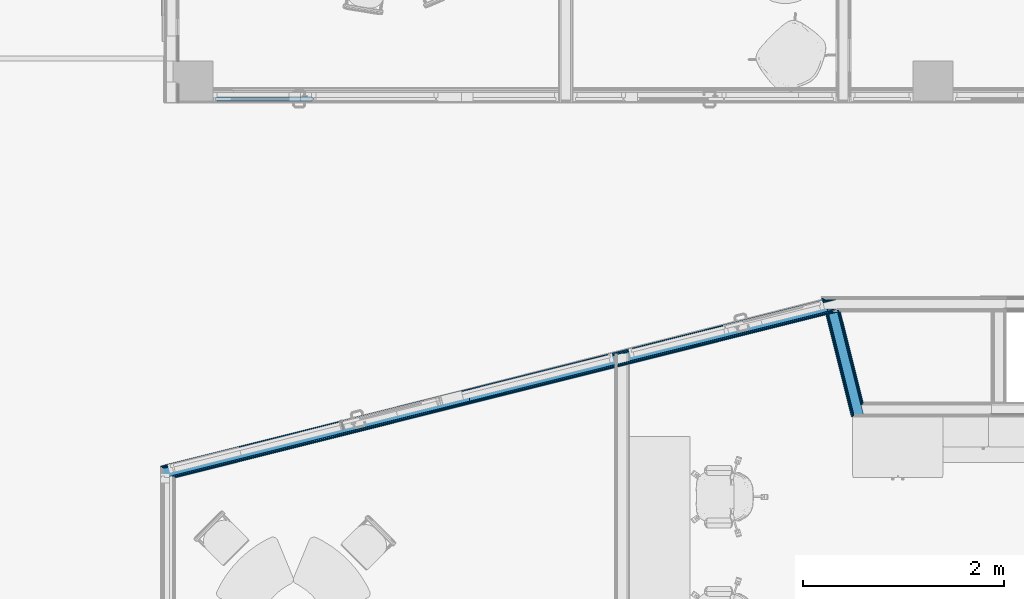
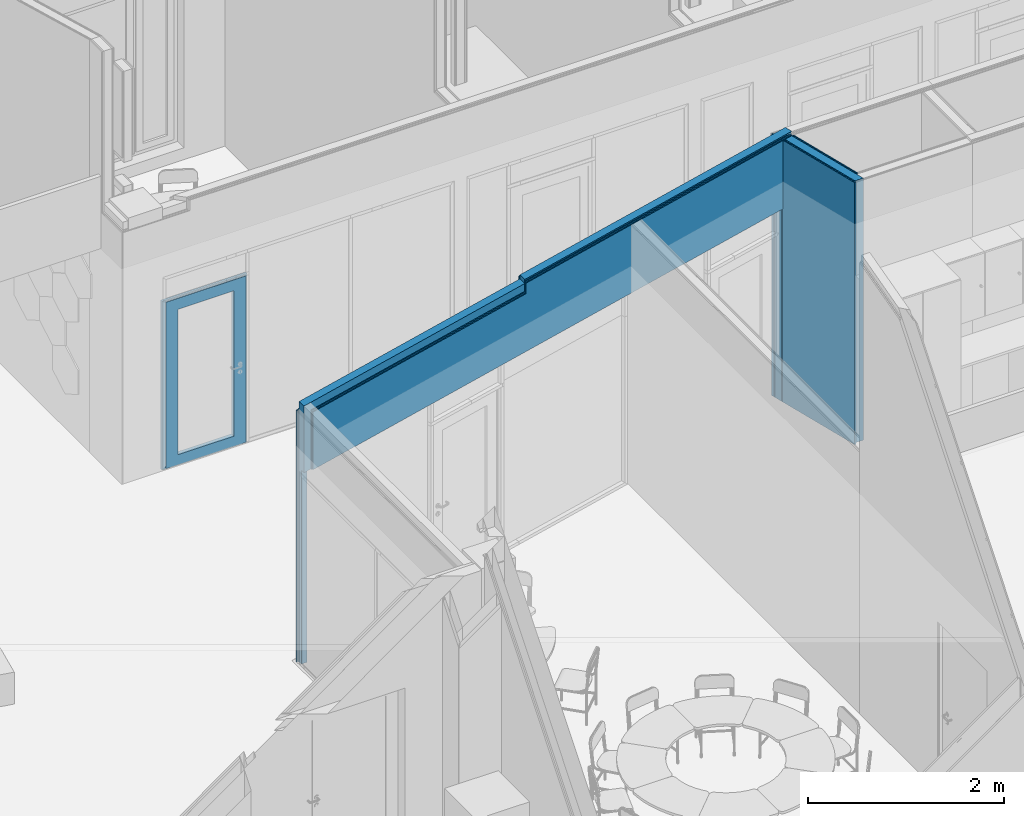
# One storey, part 73 of 153: 11 building element parts, 1 opening, 4 elements without a shape of their own.
"""IFC2X3 building model written with IfcOpenShell, lengths in millimetres."""

from ifc_helpers import new_model, entity, si_unit, converted_unit, derived_unit, money_unit, direction, frame, origin_with_axes, place, context, subcontext, project, spatial, faceted_brep, material, type_object, element, aggregate, save


model = new_model("IFC2X3")

# Units and contexts
model_context = context("Model", 3, precision=0.01, world=origin_with_axes(), true_north=direction((0.0, 1.0)))
body_context = subcontext(model_context, "Body", "Model", "MODEL_VIEW")
ifc_project = project(units=[si_unit("LENGTHUNIT", "METRE", prefix="MILLI"), si_unit("AREAUNIT", "SQUARE_METRE"), si_unit("VOLUMEUNIT", "CUBIC_METRE"), converted_unit("PLANEANGLEUNIT", "DEGREE", entity("IfcPlaneAngleMeasure", 0.0174532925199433), si_unit("PLANEANGLEUNIT", "RADIAN"), dimensions=[0, 0, 0, 0, 0, 0, 0]), money_unit("EUR"), converted_unit("TIMEUNIT", "Year", entity("IfcTimeMeasure", 31557600.0), si_unit("TIMEUNIT", "SECOND"), dimensions=[0, 0, 1, 0, 0, 0, 0]), si_unit("MASSUNIT", "GRAM", prefix="KILO"), si_unit("THERMODYNAMICTEMPERATUREUNIT", "DEGREE_CELSIUS"), si_unit("LUMINOUSINTENSITYUNIT", "LUMEN"), si_unit("ENERGYUNIT", "JOULE", prefix="MEGA"), derived_unit("THERMALCONDUCTANCEUNIT", [(si_unit("POWERUNIT", "WATT"), 1), (si_unit("LENGTHUNIT", "METRE"), -1), (si_unit("THERMODYNAMICTEMPERATUREUNIT", "KELVIN"), -1)]), derived_unit("SPECIFICHEATCAPACITYUNIT", [(si_unit("ENERGYUNIT", "JOULE"), 1), (si_unit("MASSUNIT", "GRAM", prefix="KILO"), -1), (si_unit("THERMODYNAMICTEMPERATUREUNIT", "KELVIN"), -1)]), derived_unit("MASSDENSITYUNIT", [(si_unit("MASSUNIT", "GRAM", prefix="KILO"), 1), (si_unit("VOLUMEUNIT", "CUBIC_METRE"), -1)])], contexts=[model_context])

# Site, building, storey
site_placement = place(None, frame((0.0, 0.0, 8650.0), z_axis=(0.0, 0.0, 1.0), x_axis=(1.0, 0.0, 0.0)))
site = spatial("IfcSite", under=ifc_project, at=site_placement, Name="43301:001:0844", CompositionType="ELEMENT")
building_placement = place(site_placement, origin_with_axes())
building = spatial("IfcBuilding", under=site, at=building_placement, Name="Kuressaare Ametikooli tuulikute mehaanikute õppekorpus", CompositionType="ELEMENT")
storey_placement = place(building_placement, frame((0.0, 0.0, 4100.0), z_axis=(0.0, 0.0, 1.0), x_axis=(1.0, 0.0, 0.0)))
storey = spatial("IfcBuildingStorey", under=building, at=storey_placement, Name="2.korrus", CompositionType="ELEMENT", Elevation=4100.0)

# Wall, opening, building element parts
wall_type_1 = type_object("IfcWallType", Name="SS-2.1 147", PredefinedType="NOTDEFINED")
wall_1_placement = place(storey_placement, frame((118393.9466433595, 19988.20853399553, 0.0), z_axis=(0.0, 0.0, 1.0), x_axis=(0.9699953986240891, 0.2431232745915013, 0.0)))
wall_1 = element("IfcWall", 1, at=wall_1_placement, inside=storey, type_object=wall_type_1, Name="Sisesein")
opening_placement = place(wall_1_placement, frame((3270.639591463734, 0.0, 0.0), z_axis=(0.0, 0.0, 1.0), x_axis=(1.0, 0.0, 0.0)))
element("IfcOpeningElement", 2, at=opening_placement, cuts=wall_1, Name="ava", context=body_context, shape_type="Brep", body=[
    faceted_brep([(-3352.01416842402, 0.0, 2410.0), (3352.01416842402, 0.0, 2410.0), (3352.01416842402, 1597.477005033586, 2410.0), (-3352.01416842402, 1597.477005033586, 2410.0), (-3352.01416842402, -89.9314676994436, 2410.0), (-2060.9905098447, -1744.477005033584, 2410.0), (3352.01416842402, -1744.477005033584, 2410.0), (3352.01416842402, 0.0, 0.0), (3352.01416842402, 1597.477005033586, 0.0), (-3352.01416842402, 1597.477005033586, 0.0), (-3352.01416842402, 0.0, 0.0), (-3352.01416842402, -89.9314676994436, 0.0), (-2060.9905098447, -1744.477005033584, 0.0), (3352.01416842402, -1744.477005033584, 0.0)], [[[0, 1, 2, 3]], [[1, 0, 4, 5, 6]], [[1, 7, 8, 2]], [[8, 9, 3, 2]], [[10, 0, 3, 9]], [[0, 10, 11, 4]], [[4, 11, 12, 5]], [[12, 13, 6, 5]], [[7, 1, 6, 13]], [[7, 10, 9, 8]], [[10, 7, 13, 12, 11]]]),
])
ifc_material_1 = material(Name="Kipsplaat")
building_element_part_1_placement = place(wall_1_placement, origin_with_axes())
building_element_part_1 = element("IfcBuildingElementPart", 3, at=building_element_part_1_placement, material=ifc_material_1, Name="Kipsplaat", context=body_context, shape_type="Brep", body=[
    faceted_brep([(-81.37457696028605, -13.00000000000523, 0.0), (-81.37457696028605, -13.00000000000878, 2410.0), (6622.653759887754, -13.00000000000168, 2410.0), (6622.653759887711, -13.00000000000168, 3259.999999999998), (6768.049389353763, -13.00000000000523, 3259.999999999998), (6768.049389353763, -13.00000000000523, 3260.712739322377), (3006.359452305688, -12.99999999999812, 3260.712739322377), (3006.359452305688, -13.00000000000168, 3129.999999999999), (-154.8054792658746, -13.00000000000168, 3129.999999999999), (-154.8054792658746, -13.00000000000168, 0.0), (-81.37457696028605, 0.0, 0.0), (-81.37457696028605, 0.0, 2410.0), (6622.653759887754, 0.0, 2410.0), (6622.653759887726, 0.0, 3259.999999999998), (6716.182943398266, 0.0, 3259.999999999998), (6716.182943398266, 0.0, 3260.712739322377), (3009.699769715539, 0.0, 3260.712739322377), (3009.699769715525, 0.0, 3129.999999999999), (-151.5471106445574, 0.0, 3129.999999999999), (-151.5471106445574, 0.0, 0.0)], [[[0, 1, 2, 3, 4, 5, 6, 7, 8, 9]], [[1, 0, 10, 11]], [[12, 2, 1, 11]], [[2, 12, 13, 3]], [[3, 13, 14, 4]], [[14, 15, 5, 4]], [[16, 6, 5, 15]], [[7, 6, 16, 17]], [[7, 17, 18, 8]], [[9, 8, 18, 19]], [[10, 0, 9, 19]], [[11, 10, 19, 18, 17, 16, 15, 14, 13, 12]]]),
])
building_element_part_2_placement = place(wall_1_placement, origin_with_axes())
building_element_part_2 = element("IfcBuildingElementPart", 4, at=building_element_part_2_placement, material=ifc_material_1, Name="Kipsplaat", context=body_context, shape_type="Brep", body=[
    faceted_brep([(-81.37457696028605, -25.99999999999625, 0.0), (-81.37457696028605, -25.9999999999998, 2410.0), (6622.653759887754, -25.9999999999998, 2410.0), (6622.653759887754, -26.00000000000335, 0.0), (6635.653759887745, -25.9999999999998, 0.0), (6635.653759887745, -25.9999999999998, 3259.999999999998), (6766.445018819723, -25.9999999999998, 3259.999999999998), (6766.445018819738, -25.9999999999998, 3275.712739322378), (3003.01913489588, -25.99999999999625, 3275.712739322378), (3003.01913489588, -25.9999999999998, 3145.0), (-144.6617224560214, -25.9999999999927, 3145.0), (-144.6617224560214, -25.9999999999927, 0.0), (-81.37457696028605, -13.00000000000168, 0.0), (-81.37457696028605, -12.99999999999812, 2410.0), (6622.653759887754, -12.99999999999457, 2410.0), (6622.653759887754, -12.99999999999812, 0.0), (6635.653759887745, -12.99999999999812, 0.0), (6635.653759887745, -12.99999999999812, 3259.999999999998), (6714.57857286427, -13.00000000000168, 3259.999999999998), (6714.578572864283, -13.00000000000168, 3275.712739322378), (3006.359452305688, -12.99999999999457, 3275.712739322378), (3006.359452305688, -12.99999999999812, 3145.0), (-141.4033538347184, -12.99999999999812, 3145.0), (-141.4033538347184, -12.99999999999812, 0.0)], [[[0, 1, 2, 3, 4, 5, 6, 7, 8, 9, 10, 11]], [[1, 0, 12, 13]], [[2, 1, 13, 14]], [[3, 2, 14, 15]], [[3, 15, 16, 4]], [[16, 17, 5, 4]], [[5, 17, 18, 6]], [[18, 19, 7, 6]], [[20, 8, 7, 19]], [[9, 8, 20, 21]], [[9, 21, 22, 10]], [[11, 10, 22, 23]], [[12, 0, 11, 23]], [[13, 12, 23, 22, 21, 20, 19, 18, 17, 16, 15, 14]]]),
])
building_element_part_3_placement = place(wall_1_placement, origin_with_axes())
building_element_part_3 = element("IfcBuildingElementPart", 5, at=building_element_part_3_placement, material=ifc_material_1, Name="Kipsplaat", context=body_context, shape_type="Brep", body=[
    faceted_brep([(6622.653759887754, -134.0000000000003, 2410.0), (6622.653759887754, -134.0000000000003, 3.000000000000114), (6622.65371058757, -133.9999999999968, 0.0), (6635.653759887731, -133.9999999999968, 0.0), (6635.653759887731, -133.9999999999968, 3259.999999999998), (6753.116402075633, -134.0000000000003, 3259.999999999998), (6753.116402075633, -134.0000000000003, 3275.712739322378), (2975.268805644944, -133.9999999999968, 3275.712739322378), (2975.268805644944, -133.9999999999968, 3145.0), (-60.39051203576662, -134.0000000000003, 3145.0), (-60.39051203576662, -134.0000000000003, 2410.0), (6622.65375988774, -120.9999999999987, 2410.0), (6622.653759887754, -121.0000000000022, 3.000000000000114), (6622.653709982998, -120.9999999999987, 0.0), (6635.653759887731, -120.9999999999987, 0.0), (6635.653759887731, -120.9999999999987, 3259.999999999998), (6701.249956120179, -120.9999999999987, 3259.999999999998), (6701.249956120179, -120.9999999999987, 3275.712739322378), (2978.609123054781, -120.9999999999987, 3275.712739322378), (2978.609123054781, -120.9999999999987, 3145.0), (-57.1321434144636, -120.9999999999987, 3145.0), (-57.1321434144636, -120.9999999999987, 2410.0)], [[[0, 1, 2, 3, 4, 5, 6, 7, 8, 9, 10]], [[1, 0, 11, 12]], [[1, 12, 13, 2]], [[3, 2, 13, 14]], [[14, 15, 4, 3]], [[4, 15, 16, 5]], [[16, 17, 6, 5]], [[18, 7, 6, 17]], [[8, 7, 18, 19]], [[8, 19, 20, 9]], [[21, 10, 9, 20]], [[21, 11, 0, 10]], [[11, 21, 20, 19, 18, 17, 16, 15, 14, 13, 12]]]),
])
building_element_part_4_placement = place(wall_1_placement, origin_with_axes())
building_element_part_4 = element("IfcBuildingElementPart", 6, at=building_element_part_4_placement, material=ifc_material_1, Name="Kipsplaat", context=body_context, shape_type="Brep", body=[
    faceted_brep([(-36.84462979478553, -146.9999999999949, 2410.0), (6622.653759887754, -146.9999999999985, 2410.0), (6622.653759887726, -146.9999999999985, 3259.999999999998), (6751.512031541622, -146.9999999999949, 3259.999999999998), (6751.512031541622, -146.9999999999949, 3260.712739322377), (2971.928488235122, -146.9999999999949, 3260.712739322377), (2971.928488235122, -146.9999999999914, 3129.999999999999), (-50.2467552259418, -146.9999999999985, 3129.999999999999), (-50.2467552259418, -146.9999999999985, 2410.0), (-46.98838660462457, -133.9999999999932, 2410.0), (6622.653759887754, -134.0000000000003, 2410.0), (6622.65375988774, -134.0000000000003, 3259.999999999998), (6699.645585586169, -133.9999999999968, 3259.999999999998), (6699.645585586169, -133.9999999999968, 3260.712739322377), (2975.268805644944, -133.9999999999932, 3260.712739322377), (2975.268805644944, -133.9999999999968, 3129.999999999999), (-46.98838660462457, -133.9999999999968, 3129.999999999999)], [[[0, 1, 2, 3, 4, 5, 6, 7, 8]], [[9, 10, 1, 0, 8]], [[1, 10, 11, 2]], [[2, 11, 12, 3]], [[12, 13, 4, 3]], [[14, 5, 4, 13]], [[6, 5, 14, 15]], [[6, 15, 16, 7]], [[9, 8, 7, 16]], [[10, 9, 16, 15, 14, 13, 12, 11]]]),
])
ifc_material_2 = material(Name="Soojustus - Mineraalvill pehme")
building_element_part_5_placement = place(wall_1_placement, origin_with_axes())
building_element_part_5 = element("IfcBuildingElementPart", 7, at=building_element_part_5_placement, material=ifc_material_2, Name="Soojustus - Mineraalvill pehme", context=body_context, shape_type="Brep", body=[
    faceted_brep([(6622.653759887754, -121.0000000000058, 2410.0), (6622.653759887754, -121.0000000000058, 3.000000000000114), (6622.653709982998, -121.0000000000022, 0.0), (6648.653759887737, -121.0000000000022, 0.0), (6648.653759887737, -121.0000000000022, 3259.999999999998), (6754.720772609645, -120.9999999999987, 3259.999999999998), (6754.720772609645, -120.9999999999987, 3289.999998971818), (6769.653759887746, -120.9999999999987, 3289.999998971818), (6769.653759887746, -120.9999999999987, 3290.712740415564), (2978.609123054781, -120.9999999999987, 3290.712739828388), (2978.609123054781, -121.0000000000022, 3240.0), (-155.0707523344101, -121.0000000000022, 3240.0), (-155.0707523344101, -121.0000000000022, 2410.0), (6622.653759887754, -26.00000000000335, 2410.0), (6622.653759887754, -26.00000000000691, 0.0), (6622.653759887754, -89.9999999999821, 0.0), (6622.653759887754, -89.99999999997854, 3.000000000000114), (6648.653759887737, -26.00000000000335, 0.0), (6648.653759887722, -94.41496723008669, 0.0), (6648.653759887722, -94.41496723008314, 3259.999999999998), (6375.696744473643, -26.00000000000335, 3289.999998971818), (6375.696744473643, -26.00000000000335, 3259.999999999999), (6769.653759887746, -26.00000000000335, 3289.999998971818), (6769.653759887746, -26.00000000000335, 3290.712740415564), (3003.01913489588, -25.9999999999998, 3290.712739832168), (3003.019134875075, -26.00000008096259, 3240.0), (-131.2595970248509, -26.00000000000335, 3240.0), (-143.4543012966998, -74.65353615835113, 2410.0), (-131.2595970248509, -26.00000000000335, 0.0), (-143.4543012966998, -74.65353615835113, 0.0), (-81.10107438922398, -90.28198215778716, 2410.0), (-81.37457696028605, -89.93146769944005, 2410.0), (-81.37457696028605, -25.9999999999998, 2410.0), (-81.37457696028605, -25.9999999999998, 0.0), (6648.653759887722, -26.00000008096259, 3259.999999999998), (-81.37457696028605, -89.93146769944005, 0.0), (-81.1545682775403, -90.21342564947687, 0.0), (-81.3745957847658, -90.21342573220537, 0.0), (-81.10107438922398, -90.28198215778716, 3.000000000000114), (-81.3745957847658, -90.21342573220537, 3.000000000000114), (-81.1545682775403, -90.21342564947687, 3.000000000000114)], [[[0, 1, 2, 3, 4, 5, 6, 7, 8, 9, 10, 11, 12]], [[1, 0, 13, 14, 15, 16]], [[16, 15, 2, 1]], [[15, 14, 17, 18, 3, 2]], [[18, 19, 4, 3]], [[5, 4, 19]], [[20, 6, 5, 19, 21]], [[20, 22, 7, 6]], [[23, 8, 7, 22]], [[23, 24, 9, 8]], [[9, 24, 25, 10]], [[10, 25, 26, 11]], [[27, 12, 11, 26, 28, 29]], [[30, 31, 32, 13, 0, 12, 27]], [[32, 33, 28, 26, 25, 24, 23, 22, 20, 21, 34, 17, 14, 13]], [[18, 17, 34, 19]], [[34, 21, 19]], [[35, 36, 37, 29, 28, 33]], [[38, 30, 27, 29, 37, 39]], [[30, 38, 40, 36, 35, 31]], [[35, 33, 32, 31]], [[36, 40, 39, 37]], [[40, 38, 39]]]),
])
aggregate(wall_1, [building_element_part_1, building_element_part_2, building_element_part_3, building_element_part_4, building_element_part_5])

# Wall, building element parts
wall_type_2 = type_object("IfcWallType", Name="SS-2.2 147", PredefinedType="NOTDEFINED")
wall_2_placement = place(storey_placement, frame((124960.4796407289, 21634.06892395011, 0.0), z_axis=(0.0, 0.0, 1.0), x_axis=(0.2431232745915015, -0.9699953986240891, 0.0)))
wall_2 = element("IfcWall", 8, at=wall_2_placement, inside=storey, type_object=wall_type_2, Name="Sisesein")
building_element_part_6_placement = place(wall_2_placement, origin_with_axes())
building_element_part_6 = element("IfcBuildingElementPart", 9, at=building_element_part_6_placement, material=ifc_material_1, Name="Kipsplaat", context=body_context, shape_type="Brep", body=[
    faceted_brep([(1092.788689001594, 0.0, 0.0), (1089.530320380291, -12.99999999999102, 0.0), (148.2887420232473, -13.00000000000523, 0.0), (151.5471106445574, 0.0, 0.0), (1092.788689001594, 0.0, 3259.999999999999), (1089.530320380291, -12.99999999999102, 3259.999999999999), (148.2887420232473, -13.00000000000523, 3259.999999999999), (151.5471106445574, 0.0, 3259.999999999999)], [[[0, 1, 2, 3]], [[1, 0, 4, 5]], [[1, 5, 6, 2]], [[7, 3, 2, 6]], [[4, 0, 3, 7]], [[5, 4, 7, 6]]]),
])
building_element_part_7_placement = place(wall_2_placement, origin_with_axes())
building_element_part_7 = element("IfcBuildingElementPart", 10, at=building_element_part_7_placement, material=ifc_material_1, Name="Kipsplaat", context=body_context, shape_type="Brep", body=[
    faceted_brep([(1102.93244581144, -12.99999999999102, 0.0), (1099.67407719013, -25.99999999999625, 0.0), (131.6282479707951, -25.99999999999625, 0.0), (134.8866165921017, -13.00000000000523, 0.0), (1102.93244581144, -12.99999999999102, 3259.999999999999), (1099.67407719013, -25.99999999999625, 3259.999999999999), (131.6282479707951, -25.99999999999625, 3259.999999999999), (134.8866165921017, -13.00000000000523, 3259.999999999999)], [[[0, 1, 2, 3]], [[1, 0, 4, 5]], [[1, 5, 6, 2]], [[7, 3, 2, 6]], [[4, 0, 3, 7]], [[5, 4, 7, 6]]]),
])
building_element_part_8_placement = place(wall_2_placement, origin_with_axes())
building_element_part_8 = element("IfcBuildingElementPart", 11, at=building_element_part_8_placement, material=ifc_material_2, Name="Soojustus - Mineraalvill pehme", context=body_context, shape_type="Brep", body=[
    faceted_brep([(118.2261225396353, -26.00000000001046, 0.0), (1197.612686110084, -26.00000000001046, 0.0), (1173.801530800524, -121.0000000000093, 0.0), (94.41496723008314, -121.0000000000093, 0.0), (118.2261225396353, -26.00000000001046, 3259.999999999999), (1197.612686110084, -26.00000000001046, 3259.999999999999), (1173.801530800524, -121.0000000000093, 3259.999999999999), (94.41496723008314, -121.0000000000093, 3259.999999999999)], [[[0, 1, 2, 3]], [[4, 5, 1, 0]], [[6, 2, 1, 5]], [[3, 2, 6, 7]], [[7, 4, 0, 3]], [[7, 6, 5, 4]]]),
])
building_element_part_9_placement = place(wall_2_placement, origin_with_axes())
building_element_part_9 = element("IfcBuildingElementPart", 12, at=building_element_part_9_placement, material=ifc_material_1, Name="Kipsplaat", context=body_context, shape_type="Brep", body=[
    faceted_brep([(-6.782010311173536, -134.0000000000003, 3259.999999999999), (26.00000000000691, -133.9999999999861, 3259.999999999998), (26.00000000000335, -121.0000000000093, 3259.999999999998), (-3.523641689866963, -121.0000000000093, 3259.999999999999), (-6.782010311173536, -134.0000000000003, 0.0), (26.00000000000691, -133.9999999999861, 0.0), (26.00000000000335, -121.0000000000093, 0.0), (-3.523641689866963, -121.0000000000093, 0.0)], [[[0, 1, 2, 3]], [[4, 5, 1, 0]], [[5, 6, 2, 1]], [[3, 2, 6, 7]], [[0, 3, 7, 4]], [[7, 6, 5, 4]]]),
    faceted_brep([(1187.203656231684, -120.9999999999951, 0.0), (121.0000000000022, -121.0000000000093, 0.0), (121.0000000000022, -121.0000000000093, 3259.999999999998), (1187.203656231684, -120.9999999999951, 3259.999999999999), (1183.945287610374, -134.0000000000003, 0.0), (120.9999999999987, -134.0000000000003, 0.0), (120.9999999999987, -134.0000000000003, 3259.999999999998), (1183.945287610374, -134.0000000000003, 3259.999999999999)], [[[0, 1, 2, 3]], [[4, 5, 1, 0]], [[5, 6, 2, 1]], [[3, 2, 6, 7]], [[7, 4, 0, 3]], [[7, 6, 5, 4]]]),
])
building_element_part_10_placement = place(wall_2_placement, origin_with_axes())
building_element_part_10 = element("IfcBuildingElementPart", 13, at=building_element_part_10_placement, material=ifc_material_1, Name="Kipsplaat", context=body_context, shape_type="Brep", body=[
    faceted_brep([(-20.18413574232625, -134.0000000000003, 2640.000017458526), (-11.77662618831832, -134.0000000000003, 2640.000017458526), (-11.77662618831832, -134.0000000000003, 2690.000017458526), (-20.18413574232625, -134.0000000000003, 2690.000017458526), (-20.18413574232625, -134.0000000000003, 3259.999999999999), (12.99999999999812, -134.0000000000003, 3259.999999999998), (12.99999999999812, -134.0000000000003, 0.0), (-20.18413574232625, -134.0000000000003, 0.0), (-23.44250436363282, -147.0000000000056, 2640.000017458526), (-11.7543035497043, -147.0000000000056, 2640.000017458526), (-11.7543035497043, -147.0000000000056, 2690.000017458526), (-23.44250436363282, -147.0000000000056, 2690.000017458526), (-23.44250436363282, -147.0000000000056, 3259.999999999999), (12.99999999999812, -147.0000000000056, 3259.999999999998), (12.99999999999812, -147.0000000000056, 0.0), (-23.44250436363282, -147.0000000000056, 0.0)], [[[0, 1, 2, 3, 4, 5, 6, 7]], [[1, 0, 8, 9]], [[2, 1, 9, 10]], [[3, 2, 10, 11]], [[3, 11, 12, 4]], [[12, 13, 5, 4]], [[14, 6, 5, 13]], [[7, 6, 14, 15]], [[8, 0, 7, 15]], [[9, 8, 15, 14, 13, 12, 11, 10]]]),
    faceted_brep([(1197.347413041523, -133.9999999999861, 0.0), (133.9999999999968, -134.0000000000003, 0.0), (133.9999999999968, -134.0000000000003, 3259.999999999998), (1197.347413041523, -133.9999999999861, 3259.999999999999), (1194.089044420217, -146.9999999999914, 0.0), (133.9999999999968, -147.0000000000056, 0.0), (133.9999999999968, -147.0000000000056, 3259.999999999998), (1194.089044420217, -146.9999999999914, 3259.999999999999)], [[[0, 1, 2, 3]], [[4, 5, 1, 0]], [[5, 6, 2, 1]], [[3, 2, 6, 7]], [[7, 4, 0, 3]], [[7, 6, 5, 4]]]),
])
aggregate(wall_2, [building_element_part_6, building_element_part_7, building_element_part_8, building_element_part_9, building_element_part_10])

# Curtain wall, door, building element part
curtain_wall_type = type_object("IfcCurtainWallType", Name="Curtain Wall Type", PredefinedType="NOTDEFINED")
curtain_wall_placement = place(storey_placement, frame((119422.8886145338, 23599.06892395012, 7.49398259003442e-05), z_axis=(0.0, 0.0, 1.0), x_axis=(1.0, 0.0, 0.0)))
curtain_wall = element("IfcCurtainWall", 14, at=curtain_wall_placement, inside=storey, type_object=curtain_wall_type, Name="PKF-1.1")
door_style = type_object("IfcDoorStyle", Name="728 x 2095 x 30", ConstructionType="NOTDEFINED", OperationType="SINGLE_SWING_LEFT", ParameterTakesPrecedence=False, Sizeable=False)
door_placement = place(curtain_wall_placement, frame((0.0, 0.0, 1049.999923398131), z_axis=(0.0, 0.0, 1.0), x_axis=(1.0, 0.0, 0.0)))
door = element("IfcDoor", 15, at=door_placement, type_object=door_style, Name="PKU10,dB", OverallHeight=2070.0, OverallWidth=940.0)
aggregate(curtain_wall, [door])
ifc_material_3 = material(Name="Aluminium")
building_element_part_11_placement = place(door_placement, origin_with_axes())
building_element_part_11 = element("IfcBuildingElementPart", 16, at=building_element_part_11_placement, material=ifc_material_3, Name="Aluminium", context=body_context, shape_type="Brep", body=[
    faceted_brep([(325.057959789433, -24.99999999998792, -1039.999989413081), (325.057959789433, -24.99999999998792, 1030.000011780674), (325.057959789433, -29.99999999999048, 1030.000011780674), (325.057959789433, -29.99999999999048, -1039.999989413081), (280.0579597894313, -24.99999999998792, -1039.999989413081), (280.0579597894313, -24.99999999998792, 985.0000117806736), (280.0579597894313, -29.99999999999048, 985.0000117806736), (280.0579597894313, -29.99999999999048, -1039.999989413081)], [[[0, 1, 2, 3]], [[0, 4, 5, 1]], [[1, 5, 6, 2]], [[3, 2, 6, 7]], [[4, 0, 3, 7]], [[5, 4, 7, 6]]]),
    faceted_brep([(-614.9420342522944, -24.99999999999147, 1030.000011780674), (-569.9420342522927, -24.99999999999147, 985.0000117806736), (-569.9420342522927, -29.99999999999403, 985.0000117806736), (-614.9420342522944, -29.99999999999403, 1030.000011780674), (325.057959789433, -24.99999999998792, 1030.000011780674), (280.0579597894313, -24.99999999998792, 985.0000117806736), (280.0579597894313, -29.99999999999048, 985.0000117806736), (325.057959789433, -29.99999999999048, 1030.000011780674)], [[[0, 1, 2, 3]], [[0, 4, 5, 1]], [[1, 5, 6, 2]], [[3, 2, 6, 7]], [[4, 0, 3, 7]], [[5, 4, 7, 6]]]),
    faceted_brep([(-614.9420342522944, -24.99999999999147, -1039.999989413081), (-569.9420342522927, -24.99999999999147, -1039.999989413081), (-569.9420342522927, -29.99999999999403, -1039.999989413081), (-614.9420342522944, -29.99999999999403, -1039.999989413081), (-614.9420342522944, -24.99999999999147, 1030.000011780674), (-569.9420342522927, -24.99999999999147, 985.0000117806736), (-569.9420342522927, -29.99999999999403, 985.0000117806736), (-614.9420342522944, -29.99999999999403, 1030.000011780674)], [[[0, 1, 2, 3]], [[0, 4, 5, 1]], [[1, 5, 6, 2]], [[3, 2, 6, 7]], [[4, 0, 3, 7]], [[5, 4, 7, 6]]]),
    faceted_brep([(325.057959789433, 25.00000000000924, -1039.999989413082), (325.057959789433, 25.00000000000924, 1030.000011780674), (325.057959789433, -24.99999999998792, 1030.000011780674), (325.057959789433, -24.99999999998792, -1039.999989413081), (305.0579597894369, 25.00000000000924, -1039.999989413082), (305.0579597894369, 25.00000000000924, 1010.000011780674), (305.0579597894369, -24.99999999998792, 1010.000011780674), (305.0579597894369, -24.99999999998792, -1039.999989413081)], [[[0, 1, 2, 3]], [[0, 4, 5, 1]], [[1, 5, 6, 2]], [[3, 2, 6, 7]], [[4, 0, 3, 7]], [[5, 4, 7, 6]]]),
    faceted_brep([(-614.9420342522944, 25.00000000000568, 1030.000011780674), (-594.9420342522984, 25.00000000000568, 1010.000011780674), (-594.9420342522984, -24.99999999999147, 1010.000011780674), (-614.9420342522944, -24.99999999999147, 1030.000011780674), (325.057959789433, 25.00000000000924, 1030.000011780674), (305.0579597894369, 25.00000000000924, 1010.000011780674), (305.0579597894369, -24.99999999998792, 1010.000011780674), (325.057959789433, -24.99999999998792, 1030.000011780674)], [[[0, 1, 2, 3]], [[0, 4, 5, 1]], [[1, 5, 6, 2]], [[3, 2, 6, 7]], [[4, 0, 3, 7]], [[5, 4, 7, 6]]]),
    faceted_brep([(-614.9420342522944, 25.00000000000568, -1039.999989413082), (-594.9420342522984, 25.00000000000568, -1039.999989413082), (-594.9420342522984, -24.99999999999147, -1039.999989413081), (-614.9420342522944, -24.99999999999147, -1039.999989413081), (-614.9420342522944, 25.00000000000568, 1030.000011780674), (-594.9420342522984, 25.00000000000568, 1010.000011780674), (-594.9420342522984, -24.99999999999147, 1010.000011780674), (-614.9420342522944, -24.99999999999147, 1030.000011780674)], [[[0, 1, 2, 3]], [[0, 4, 5, 1]], [[1, 5, 6, 2]], [[3, 2, 6, 7]], [[4, 0, 3, 7]], [[5, 4, 7, 6]]]),
    faceted_brep([(-654.9420386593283, 15.00000000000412, -1054.999998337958), (345.0579755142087, 15.00000000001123, -1054.999998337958), (345.0579755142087, -14.99999999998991, -1054.999998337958), (-654.9420386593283, -14.99999999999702, -1054.999998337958), (-614.9420342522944, 15.00000000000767, -1039.999989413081), (325.057959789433, 15.00000000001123, -1039.999989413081), (325.057959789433, -14.99999999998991, -1039.999989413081), (-614.9420342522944, -14.99999999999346, -1039.999989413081)], [[[0, 1, 2, 3]], [[0, 4, 5, 1]], [[1, 5, 6, 2]], [[3, 2, 6, 7]], [[4, 0, 3, 7]], [[5, 4, 7, 6]]]),
    faceted_brep([(345.0579755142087, 15.00000000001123, -1054.999998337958), (345.0579755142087, 15.00000000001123, 1044.99999387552), (345.0579755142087, -14.99999999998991, 1044.99999387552), (345.0579755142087, -14.99999999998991, -1054.999998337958), (325.057959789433, 15.00000000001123, -1039.999989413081), (325.057959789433, 15.00000000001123, 1030.000011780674), (325.057959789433, -14.99999999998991, 1030.000011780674), (325.057959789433, -14.99999999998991, -1039.999989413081)], [[[0, 1, 2, 3]], [[0, 4, 5, 1]], [[1, 5, 6, 2]], [[3, 2, 6, 7]], [[4, 0, 3, 7]], [[5, 4, 7, 6]]]),
    faceted_brep([(345.0579755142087, 15.00000000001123, 1044.99999387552), (-654.9420386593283, 15.00000000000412, 1044.99999387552), (-654.9420386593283, -14.99999999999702, 1044.99999387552), (345.0579755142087, -14.99999999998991, 1044.99999387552), (325.057959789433, 15.00000000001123, 1030.000011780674), (-614.9420342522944, 15.00000000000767, 1030.000011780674), (-614.9420342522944, -14.99999999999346, 1030.000011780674), (325.057959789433, -14.99999999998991, 1030.000011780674)], [[[0, 1, 2, 3]], [[0, 4, 5, 1]], [[1, 5, 6, 2]], [[3, 2, 6, 7]], [[4, 0, 3, 7]], [[5, 4, 7, 6]]]),
    faceted_brep([(-654.9420386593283, 15.00000000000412, 1044.99999387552), (-654.9420386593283, 15.00000000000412, -1054.999998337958), (-654.9420386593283, -14.99999999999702, -1054.999998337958), (-654.9420386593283, -14.99999999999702, 1044.99999387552), (-614.9420342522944, 15.00000000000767, 1030.000011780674), (-614.9420342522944, 15.00000000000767, -1039.999989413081), (-614.9420342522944, -14.99999999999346, -1039.999989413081), (-614.9420342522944, -14.99999999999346, 1030.000011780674)], [[[0, 1, 2, 3]], [[0, 4, 5, 1]], [[1, 5, 6, 2]], [[3, 2, 6, 7]], [[4, 0, 3, 7]], [[5, 4, 7, 6]]]),
    faceted_brep([(-474.9420342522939, -24.99999999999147, -919.999989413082), (-474.9420342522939, 25.00000000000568, -919.999989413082), (-474.9420342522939, 25.00000000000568, 890.000011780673), (-474.9420342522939, -24.99999999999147, 890.000011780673), (-594.9420342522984, -24.99999999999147, -1039.999989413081), (-594.9420342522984, 25.00000000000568, -1039.999989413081), (-594.9420342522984, 25.00000000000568, 1010.000011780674), (-594.9420342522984, -24.99999999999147, 1010.000011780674)], [[[0, 1, 2, 3]], [[4, 5, 1, 0]], [[1, 5, 6, 2]], [[3, 2, 6, 7]], [[0, 3, 7, 4]], [[7, 6, 5, 4]]]),
    faceted_brep([(305.0579597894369, -24.99999999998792, -1039.999989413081), (305.0579597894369, 25.00000000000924, -1039.999989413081), (305.0579597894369, 25.00000000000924, 1010.000011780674), (305.0579597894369, -24.99999999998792, 1010.000011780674), (185.0579597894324, -24.99999999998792, -919.999989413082), (185.0579597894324, 25.00000000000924, -919.999989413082), (185.0579597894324, 25.00000000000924, 890.000011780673), (185.0579597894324, -24.99999999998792, 890.000011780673)], [[[0, 1, 2, 3]], [[4, 5, 1, 0]], [[1, 5, 6, 2]], [[3, 2, 6, 7]], [[0, 3, 7, 4]], [[7, 6, 5, 4]]]),
    faceted_brep([(305.0579597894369, -24.99999999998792, -1039.999989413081), (305.0579597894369, 25.00000000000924, -1039.999989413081), (185.0579597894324, 25.00000000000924, -919.999989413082), (185.0579597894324, -24.99999999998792, -919.999989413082), (-594.9420342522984, -24.99999999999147, -1039.999989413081), (-594.9420342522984, 25.00000000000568, -1039.999989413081), (-474.9420342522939, 25.00000000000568, -919.999989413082), (-474.9420342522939, -24.99999999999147, -919.999989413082)], [[[0, 1, 2, 3]], [[4, 5, 1, 0]], [[1, 5, 6, 2]], [[3, 2, 6, 7]], [[0, 3, 7, 4]], [[7, 6, 5, 4]]]),
    faceted_brep([(-594.9420342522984, -24.99999999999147, 1010.000011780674), (-594.9420342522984, 25.00000000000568, 1010.000011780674), (-474.9420342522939, 25.00000000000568, 890.000011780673), (-474.9420342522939, -24.99999999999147, 890.000011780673), (305.0579597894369, -24.99999999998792, 1010.000011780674), (305.0579597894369, 25.00000000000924, 1010.000011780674), (185.0579597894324, 25.00000000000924, 890.000011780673), (185.0579597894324, -24.99999999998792, 890.000011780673)], [[[0, 1, 2, 3]], [[4, 5, 1, 0]], [[1, 5, 6, 2]], [[3, 2, 6, 7]], [[0, 3, 7, 4]], [[7, 6, 5, 4]]]),
])
aggregate(door, [building_element_part_11])

save(model, "model.ifc")
